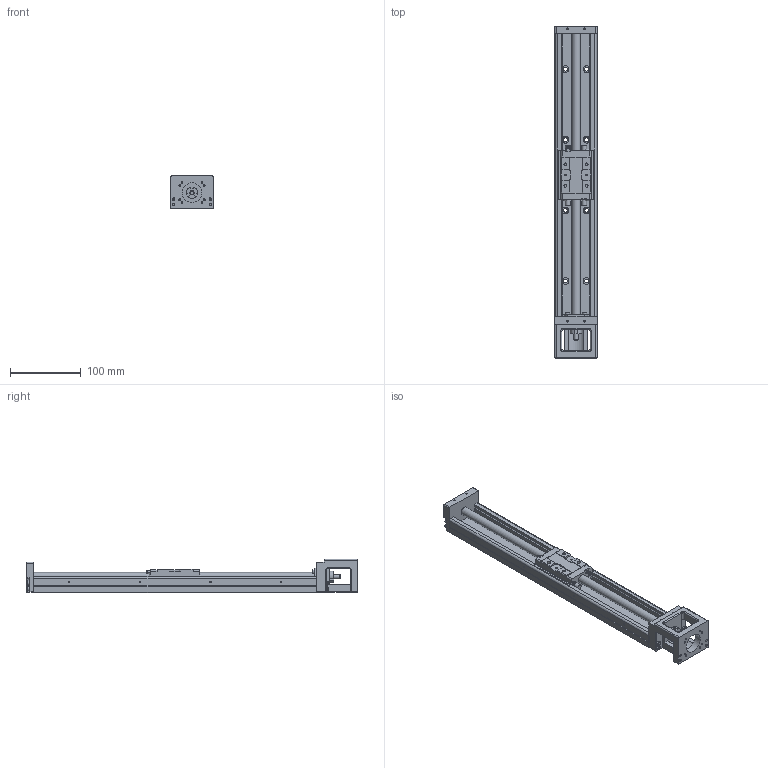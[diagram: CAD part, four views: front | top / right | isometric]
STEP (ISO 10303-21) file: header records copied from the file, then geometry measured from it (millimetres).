
FILE_DESCRIPTION(/* description */ (''),/* implementation_level */ '2;1');
FILE_NAME(/* name */ 'FKL60E310 05(10)C7.stp',/* time_stamp */ '2019-01-30T11:12:50+08:00',/* author */ (''),/* organization */ (''),/* preprocessor_version */ 'ST-DEVELOPER v16',/* originating_system */ 'SIEMENS PLM Software NX 10.0',/* authorisation */ '');
FILE_SCHEMA (('AUTOMOTIVE_DESIGN { 1 0 10303 214 3 1 1 1 }'));
Length unit declared in the file: millimetre
Products named in the file (3): 滑台.KK60.90-A1; 轨道.KK60-400; FKL60E310 05(10)C7
Assembly tree (2 placements, depth 2):
  FKL60E310 05(10)C7
    轨道.KK60-400
    滑台.KK60.90-A1
Bounding box: 60 x 470 x 47 mm (x, y, z)
Volume: 491198.8 mm3; surface area: 138924.7 mm2
Topology: 2 solids, 2 shells, 506 faces, 1293 edges, 840 vertices
Faces by surface type: plane 313, cylinder 149, torus 22, cone 13, sphere 9
Full cylindrical faces by diameter (mm): 2.05 x8, 2.5 x14, 3.3 x1, 3.5 x4, 4.2 x4, 5.5 x16, 6 x5, 7 x4, 9.5 x8, 11 x1, 12 x2, 28 x1
Entity records: 14746 total; most frequent: CARTESIAN_POINT 2518, DIRECTION 2498, ORIENTED_EDGE 2288, EDGE_CURVE 1144, AXIS2_PLACEMENT_3D 857, VERTEX_POINT 785, LINE 784, VECTOR 784
